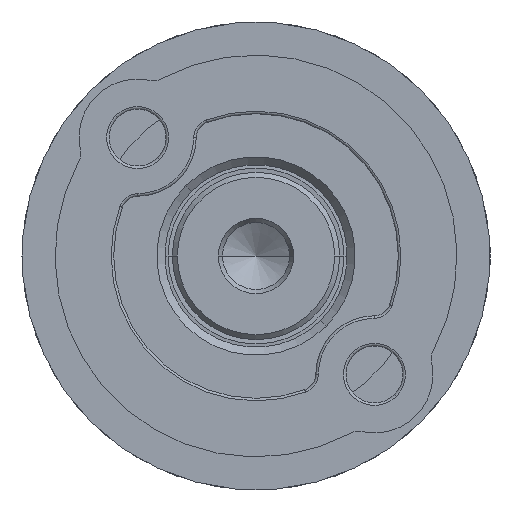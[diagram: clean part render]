
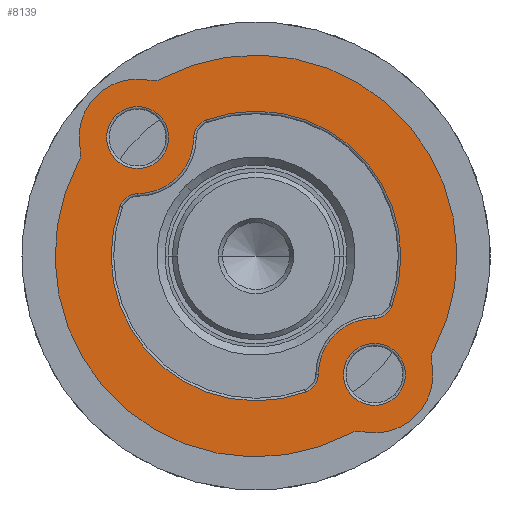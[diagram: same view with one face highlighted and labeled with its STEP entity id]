
A CAD part, left-side view. The second image highlights one B-rep face of the part: STEP entity #8139.
In plain terms, the highlighted planar face has unit normal (-1, 0, 0).
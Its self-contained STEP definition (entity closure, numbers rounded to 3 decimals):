
#5888=CARTESIAN_POINT('',(-2.05,-10.,0.));
#5889=DIRECTION('',(-1.,0.,0.));
#5890=DIRECTION('',(0.,-0.542,-0.841));
#5891=AXIS2_PLACEMENT_3D('',#5888,#5889,#5890);
#5896=CARTESIAN_POINT('',(-2.05,0.,0.));
#5897=DIRECTION('',(-1.,0.,0.));
#5898=DIRECTION('',(0.,0.957,-0.291));
#5899=AXIS2_PLACEMENT_3D('',#5896,#5897,#5898);
#5904=CARTESIAN_POINT('',(-2.05,10.,0.));
#5905=DIRECTION('',(-1.,0.,0.));
#5906=DIRECTION('',(0.,0.542,0.841));
#5907=AXIS2_PLACEMENT_3D('',#5904,#5905,#5906);
#5912=CARTESIAN_POINT('',(-2.05,0.,0.));
#5913=DIRECTION('',(-1.,0.,0.));
#5914=DIRECTION('',(0.,-0.957,0.291));
#5915=AXIS2_PLACEMENT_3D('',#5912,#5913,#5914);
#5920=CARTESIAN_POINT('',(-2.05,10.,0.));
#5921=DIRECTION('',(-1.,0.,0.));
#5922=DIRECTION('',(0.,-0.711,-0.703));
#5923=AXIS2_PLACEMENT_3D('',#5920,#5921,#5922);
#5928=CARTESIAN_POINT('',(-2.05,6.8,-3.164));
#5929=DIRECTION('',(1.,0.,0.));
#5930=DIRECTION('',(0.,0.907,-0.422));
#5931=AXIS2_PLACEMENT_3D('',#5928,#5929,#5930);
#5936=CARTESIAN_POINT('',(-2.05,0.,0.));
#5937=DIRECTION('',(1.,0.,0.));
#5938=DIRECTION('',(0.,-0.907,-0.422));
#5939=AXIS2_PLACEMENT_3D('',#5936,#5937,#5938);
#5944=CARTESIAN_POINT('',(-2.05,-6.8,-3.164));
#5945=DIRECTION('',(1.,0.,0.));
#5946=DIRECTION('',(0.,-0.711,0.703));
#5947=AXIS2_PLACEMENT_3D('',#5944,#5945,#5946);
#5952=CARTESIAN_POINT('',(-2.05,-10.,0.));
#5953=DIRECTION('',(-1.,0.,0.));
#5954=DIRECTION('',(0.,0.711,0.703));
#5955=AXIS2_PLACEMENT_3D('',#5952,#5953,#5954);
#5960=CARTESIAN_POINT('',(-2.05,-6.8,3.164));
#5961=DIRECTION('',(1.,0.,0.));
#5962=DIRECTION('',(0.,-0.907,0.422));
#5963=AXIS2_PLACEMENT_3D('',#5960,#5961,#5962);
#5968=CARTESIAN_POINT('',(-2.05,0.,0.));
#5969=DIRECTION('',(1.,0.,0.));
#5970=DIRECTION('',(0.,0.907,0.422));
#5971=AXIS2_PLACEMENT_3D('',#5968,#5969,#5970);
#5976=CARTESIAN_POINT('',(-2.05,6.8,3.164));
#5977=DIRECTION('',(1.,0.,0.));
#5978=DIRECTION('',(0.,0.711,-0.703));
#5979=AXIS2_PLACEMENT_3D('',#5976,#5977,#5978);
#5984=CARTESIAN_POINT('',(-2.05,-10.,0.));
#5985=DIRECTION('',(1.,0.,0.));
#5986=DIRECTION('',(0.,-1.,0.));
#5987=AXIS2_PLACEMENT_3D('',#5984,#5985,#5986);
#5992=CARTESIAN_POINT('',(-2.05,-10.,0.));
#5993=DIRECTION('',(1.,0.,0.));
#5994=DIRECTION('',(0.,1.,0.));
#5995=AXIS2_PLACEMENT_3D('',#5992,#5993,#5994);
#6000=CARTESIAN_POINT('',(-2.05,10.,0.));
#6001=DIRECTION('',(1.,0.,0.));
#6002=DIRECTION('',(0.,-1.,0.));
#6003=AXIS2_PLACEMENT_3D('',#6000,#6001,#6002);
#6008=CARTESIAN_POINT('',(-2.05,10.,0.));
#6009=DIRECTION('',(1.,0.,0.));
#6010=DIRECTION('',(0.,1.,0.));
#6011=AXIS2_PLACEMENT_3D('',#6008,#6009,#6010);
#6030=CARTESIAN_POINT('',(-2.05,-12.438,-3.783));
#6031=DIRECTION('',(1.,0.,0.));
#6032=DIRECTION('',(0.,0.957,0.291));
#6033=AXIS2_PLACEMENT_3D('',#6030,#6031,#6032);
#6052=CARTESIAN_POINT('',(-2.05,12.438,-3.783));
#6053=DIRECTION('',(1.,0.,0.));
#6054=DIRECTION('',(0.,-0.542,0.841));
#6055=AXIS2_PLACEMENT_3D('',#6052,#6053,#6054);
#6074=CARTESIAN_POINT('',(-2.05,12.438,3.783));
#6075=DIRECTION('',(1.,0.,0.));
#6076=DIRECTION('',(0.,-0.957,-0.291));
#6077=AXIS2_PLACEMENT_3D('',#6074,#6075,#6076);
#6096=CARTESIAN_POINT('',(-2.05,-12.438,3.783));
#6097=DIRECTION('',(1.,0.,0.));
#6098=DIRECTION('',(0.,0.542,-0.841));
#6099=AXIS2_PLACEMENT_3D('',#6096,#6097,#6098);
#7325=CARTESIAN_POINT('',(-2.05,11.896,-2.942));
#7326=VERTEX_POINT('',#7325);
#7327=CARTESIAN_POINT('',(-2.05,11.481,-3.492));
#7328=VERTEX_POINT('',#7327);
#7333=CARTESIAN_POINT('',(-2.05,11.481,3.492));
#7334=VERTEX_POINT('',#7333);
#7335=CARTESIAN_POINT('',(-2.05,11.896,2.942));
#7336=VERTEX_POINT('',#7335);
#7341=CARTESIAN_POINT('',(-2.05,-11.896,2.942));
#7342=VERTEX_POINT('',#7341);
#7343=CARTESIAN_POINT('',(-2.05,-11.481,3.492));
#7344=VERTEX_POINT('',#7343);
#7349=CARTESIAN_POINT('',(-2.05,-11.481,-3.492));
#7350=VERTEX_POINT('',#7349);
#7351=CARTESIAN_POINT('',(-2.05,-11.896,-2.942));
#7352=VERTEX_POINT('',#7351);
#7453=CARTESIAN_POINT('',(-2.05,7.618,-2.355));
#7454=CARTESIAN_POINT('',(-2.05,7.618,2.355));
#7455=VERTEX_POINT('',#7453);
#7456=VERTEX_POINT('',#7454);
#7457=CARTESIAN_POINT('',(-2.05,7.843,
-3.649));
#7458=VERTEX_POINT('',#7457);
#7461=CARTESIAN_POINT('',(-2.05,-7.843,-3.649));
#7462=VERTEX_POINT('',#7461);
#7465=CARTESIAN_POINT('',(-2.05,-11.85,0.));
#7466=CARTESIAN_POINT('',(-2.05,-8.15,0.));
#7467=VERTEX_POINT('',#7465);
#7468=VERTEX_POINT('',#7466);
#7473=CARTESIAN_POINT('',(-2.05,8.15,0.));
#7474=CARTESIAN_POINT('',(-2.05,11.85,0.));
#7475=VERTEX_POINT('',#7473);
#7476=VERTEX_POINT('',#7474);
#7585=CARTESIAN_POINT('',(-2.05,-7.618,2.355));
#7586=CARTESIAN_POINT('',(-2.05,-7.618,-2.355));
#7587=VERTEX_POINT('',#7585);
#7588=VERTEX_POINT('',#7586);
#7593=CARTESIAN_POINT('',(-2.05,7.843,3.649));
#7594=VERTEX_POINT('',#7593);
#7597=CARTESIAN_POINT('',(-2.05,-7.843,3.649));
#7598=VERTEX_POINT('',#7597);
#8087=CARTESIAN_POINT('',(-2.05,0.,0.));
#8088=DIRECTION('',(1.,0.,0.));
#8089=DIRECTION('',(0.,-1.,0.));
#8090=AXIS2_PLACEMENT_3D('',#8087,#8088,#8089);
#8091=PLANE('',#8090);
#8093=ORIENTED_EDGE('',*,*,#8092,.F.);
#8095=ORIENTED_EDGE('',*,*,#8094,.F.);
#8097=ORIENTED_EDGE('',*,*,#8096,.F.);
#8099=ORIENTED_EDGE('',*,*,#8098,.F.);
#8101=ORIENTED_EDGE('',*,*,#8100,.F.);
#8103=ORIENTED_EDGE('',*,*,#8102,.F.);
#8105=ORIENTED_EDGE('',*,*,#8104,.F.);
#8107=ORIENTED_EDGE('',*,*,#8106,.F.);
#8108=EDGE_LOOP('',(#8093,#8095,#8097,#8099,#8101,#8103,#8105,#8107));
#8109=FACE_OUTER_BOUND('',#8108,.F.);
#8111=ORIENTED_EDGE('',*,*,#8110,.F.);
#8113=ORIENTED_EDGE('',*,*,#8112,.F.);
#8115=ORIENTED_EDGE('',*,*,#8114,.F.);
#8117=ORIENTED_EDGE('',*,*,#8116,.F.);
#8119=ORIENTED_EDGE('',*,*,#8118,.F.);
#8121=ORIENTED_EDGE('',*,*,#8120,.F.);
#8123=ORIENTED_EDGE('',*,*,#8122,.F.);
#8125=ORIENTED_EDGE('',*,*,#8124,.F.);
#8126=EDGE_LOOP('',(#8111,#8113,#8115,#8117,#8119,#8121,#8123,#8125));
#8127=FACE_BOUND('',#8126,.F.);
#8129=ORIENTED_EDGE('',*,*,#8128,.F.);
#8131=ORIENTED_EDGE('',*,*,#8130,.F.);
#8132=EDGE_LOOP('',(#8129,#8131));
#8133=FACE_BOUND('',#8132,.F.);
#8135=ORIENTED_EDGE('',*,*,#8134,.F.);
#8136=ORIENTED_EDGE('',*,*,#8077,.F.);
#8137=EDGE_LOOP('',(#8135,#8136));
#8138=FACE_BOUND('',#8137,.F.);
#5892=CIRCLE('',#5891,3.5);
#5900=CIRCLE('',#5899,12.);
#5908=CIRCLE('',#5907,3.5);
#5916=CIRCLE('',#5915,12.);
#5924=CIRCLE('',#5923,3.35);
#5932=CIRCLE('',#5931,1.15);
#5940=CIRCLE('',#5939,8.65);
#5948=CIRCLE('',#5947,1.15);
#5956=CIRCLE('',#5955,3.35);
#5964=CIRCLE('',#5963,1.15);
#5972=CIRCLE('',#5971,8.65);
#5980=CIRCLE('',#5979,1.15);
#5988=CIRCLE('',#5987,1.85);
#5996=CIRCLE('',#5995,1.85);
#6004=CIRCLE('',#6003,1.85);
#6012=CIRCLE('',#6011,1.85);
#6034=CIRCLE('',#6033,1.);
#6056=CIRCLE('',#6055,1.);
#6078=CIRCLE('',#6077,1.);
#6100=CIRCLE('',#6099,1.);
#8077=EDGE_CURVE('',#7476,#7475,#6012,.T.);
#8092=EDGE_CURVE('',#7352,#7342,#5892,.T.);
#8094=EDGE_CURVE('',#7350,#7352,#6034,.T.);
#8096=EDGE_CURVE('',#7328,#7350,#5900,.T.);
#8098=EDGE_CURVE('',#7326,#7328,#6056,.T.);
#8100=EDGE_CURVE('',#7336,#7326,#5908,.T.);
#8102=EDGE_CURVE('',#7334,#7336,#6078,.T.);
#8104=EDGE_CURVE('',#7344,#7334,#5916,.T.);
#8106=EDGE_CURVE('',#7342,#7344,#6100,.T.);
#8110=EDGE_CURVE('',#7455,#7456,#5924,.T.);
#8112=EDGE_CURVE('',#7458,#7455,#5932,.T.);
#8114=EDGE_CURVE('',#7462,#7458,#5940,.T.);
#8116=EDGE_CURVE('',#7588,#7462,#5948,.T.);
#8118=EDGE_CURVE('',#7587,#7588,#5956,.T.);
#8120=EDGE_CURVE('',#7598,#7587,#5964,.T.);
#8122=EDGE_CURVE('',#7594,#7598,#5972,.T.);
#8124=EDGE_CURVE('',#7456,#7594,#5980,.T.);
#8128=EDGE_CURVE('',#7467,#7468,#5988,.T.);
#8130=EDGE_CURVE('',#7468,#7467,#5996,.T.);
#8134=EDGE_CURVE('',#7475,#7476,#6004,.T.);
#8139=ADVANCED_FACE('',(#8109,#8127,#8133,#8138),#8091,.F.);
